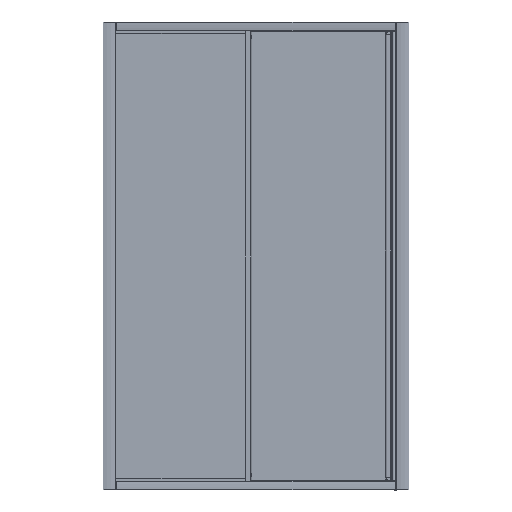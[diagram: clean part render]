
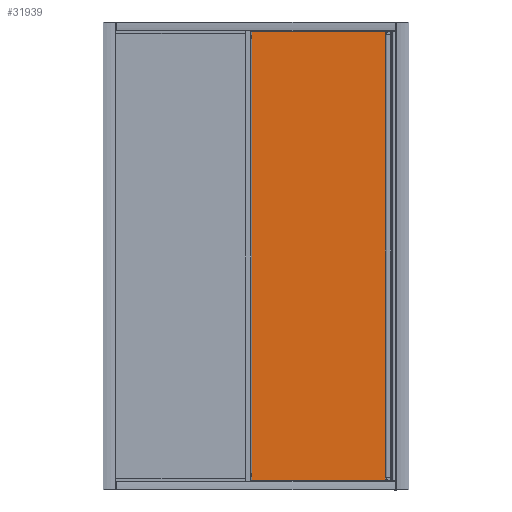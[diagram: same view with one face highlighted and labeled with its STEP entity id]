
A CAD part, left-side view. The second image highlights one B-rep face of the part: STEP entity #31939.
In plain terms, the highlighted planar face has unit normal (-1, 0, 0) as drawn and (0, 1, 0) by its records, which use the part's own axes.
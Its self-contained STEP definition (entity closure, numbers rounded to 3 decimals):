
#1419=PLANE('',#34840);
#2852=FACE_OUTER_BOUND('',#4616,.T.);
#4616=EDGE_LOOP('',(#26622,#26623,#26624,#26625));
#7144=LINE('',#53697,#9944);
#7149=LINE('',#53708,#9949);
#7151=LINE('',#53711,#9951);
#7152=LINE('',#53712,#9952);
#9944=VECTOR('',#42468,1797.);
#9949=VECTOR('',#42477,1797.);
#9951=VECTOR('',#42481,550.);
#9952=VECTOR('',#42482,550.);
#14564=VERTEX_POINT('',#53690);
#14567=VERTEX_POINT('',#53695);
#14570=VERTEX_POINT('',#53705);
#14571=VERTEX_POINT('',#53707);
#18763=EDGE_CURVE('',#14567,#14564,#7144,.T.);
#18768=EDGE_CURVE('',#14571,#14570,#7149,.T.);
#18770=EDGE_CURVE('',#14570,#14564,#7151,.T.);
#18771=EDGE_CURVE('',#14571,#14567,#7152,.T.);
#26622=ORIENTED_EDGE('',*,*,#18770,.T.);
#26623=ORIENTED_EDGE('',*,*,#18763,.F.);
#26624=ORIENTED_EDGE('',*,*,#18771,.F.);
#26625=ORIENTED_EDGE('',*,*,#18768,.T.);
#31939=ADVANCED_FACE('',(#2852),#1419,.T.);
#34840=AXIS2_PLACEMENT_3D('',#53710,#42479,#42480);
#42468=DIRECTION('',(0.,0.,1.));
#42477=DIRECTION('',(0.,0.,1.));
#42479=DIRECTION('center_axis',(0.,1.,0.));
#42480=DIRECTION('ref_axis',(0.,0.,1.));
#42481=DIRECTION('',(1.,0.,0.));
#42482=DIRECTION('',(1.,0.,0.));
#53690=CARTESIAN_POINT('',(516.497,5.346,1797.));
#53695=CARTESIAN_POINT('',(516.497,5.346,0.));
#53697=CARTESIAN_POINT('',(516.497,5.346,0.));
#53705=CARTESIAN_POINT('',(-33.503,5.346,1797.));
#53707=CARTESIAN_POINT('',(-33.503,5.346,0.));
#53708=CARTESIAN_POINT('',(-33.503,5.346,0.));
#53710=CARTESIAN_POINT('Origin',(-33.503,5.346,0.));
#53711=CARTESIAN_POINT('',(-33.503,5.346,1797.));
#53712=CARTESIAN_POINT('',(-33.503,5.346,0.));
